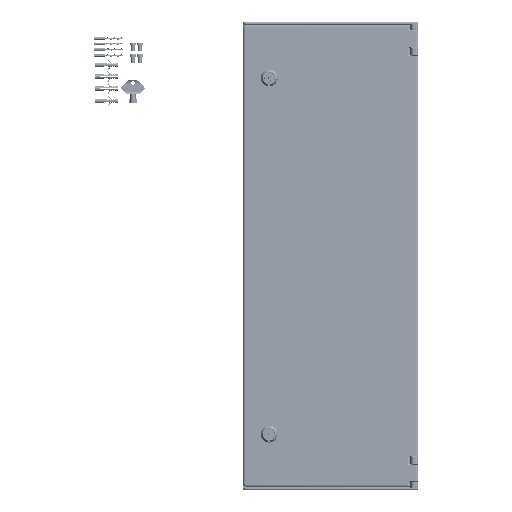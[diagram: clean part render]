
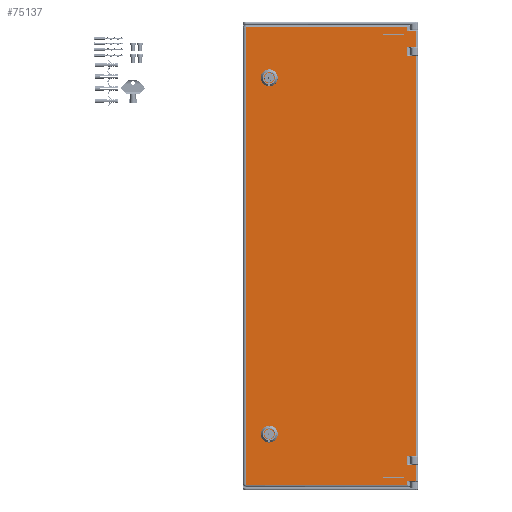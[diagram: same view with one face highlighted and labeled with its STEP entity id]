
A CAD part, top view. The second image highlights one B-rep face of the part: STEP entity #75137.
In plain terms, the highlighted planar face has unit normal (0, 0, 1) as drawn and (0, 0, -1) by its records, which use the part's own axes.
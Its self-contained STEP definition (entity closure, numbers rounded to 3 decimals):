
#2511=B_SPLINE_CURVE_WITH_KNOTS('',3,(#161069,#161070,#161071,#161072),
 .UNSPECIFIED.,.F.,.F.,(4,4),(0.,1.),.UNSPECIFIED.);
#2512=B_SPLINE_CURVE_WITH_KNOTS('',3,(#161076,#161077,#161078,#161079),
 .UNSPECIFIED.,.F.,.F.,(4,4),(0.,1.),.UNSPECIFIED.);
#4168=CIRCLE('',#80747,0.75);
#4169=CIRCLE('',#80748,0.75);
#4170=CIRCLE('',#80749,0.75);
#4171=CIRCLE('',#80750,0.75);
#7965=FACE_BOUND('',#14495,.T.);
#7966=FACE_BOUND('',#14496,.T.);
#9855=FACE_OUTER_BOUND('',#14494,.T.);
#14494=EDGE_LOOP('',(#56931,#56932,#56933,#56934,#56935,#56936,#56937,#56938,
#56939,#56940,#56941,#56942,#56943,#56944,#56945,#56946,#56947,#56948));
#14495=EDGE_LOOP('',(#56949,#56950,#56951,#56952));
#14496=EDGE_LOOP('',(#56953,#56954,#56955,#56956));
#21049=LINE('',#161047,#26611);
#21050=LINE('',#161049,#26612);
#21051=LINE('',#161051,#26613);
#21052=LINE('',#161053,#26614);
#21053=LINE('',#161055,#26615);
#21054=LINE('',#161057,#26616);
#21055=LINE('',#161059,#26617);
#21056=LINE('',#161061,#26618);
#21057=LINE('',#161063,#26619);
#21058=LINE('',#161065,#26620);
#21059=LINE('',#161067,#26621);
#21060=LINE('',#161074,#26622);
#21061=LINE('',#161081,#26623);
#21062=LINE('',#161083,#26624);
#21063=LINE('',#161085,#26625);
#21064=LINE('',#161086,#26626);
#21065=LINE('',#161089,#26627);
#21066=LINE('',#161093,#26628);
#21067=LINE('',#161097,#26629);
#21068=LINE('',#161101,#26630);
#26611=VECTOR('',#93207,14.);
#26612=VECTOR('',#93208,15.753);
#26613=VECTOR('',#93209,14.);
#26614=VECTOR('',#93210,683.147);
#26615=VECTOR('',#93211,14.);
#26616=VECTOR('',#93212,15.753);
#26617=VECTOR('',#93213,14.);
#26618=VECTOR('',#93214,27.747);
#26619=VECTOR('',#93215,14.);
#26620=VECTOR('',#93216,6.217);
#26621=VECTOR('',#93217,275.145);
#26622=VECTOR('',#93218,779.632);
#26623=VECTOR('',#93219,275.145);
#26624=VECTOR('',#93220,6.217);
#26625=VECTOR('',#93221,14.);
#26626=VECTOR('',#93222,27.747);
#26627=VECTOR('',#93223,33.5);
#26628=VECTOR('',#93226,33.5);
#26629=VECTOR('',#93229,33.5);
#26630=VECTOR('',#93232,33.5);
#32650=VERTEX_POINT('',#161045);
#32651=VERTEX_POINT('',#161046);
#32652=VERTEX_POINT('',#161048);
#32653=VERTEX_POINT('',#161050);
#32654=VERTEX_POINT('',#161052);
#32655=VERTEX_POINT('',#161054);
#32656=VERTEX_POINT('',#161056);
#32657=VERTEX_POINT('',#161058);
#32658=VERTEX_POINT('',#161060);
#32659=VERTEX_POINT('',#161062);
#32660=VERTEX_POINT('',#161064);
#32661=VERTEX_POINT('',#161066);
#32662=VERTEX_POINT('',#161068);
#32663=VERTEX_POINT('',#161073);
#32664=VERTEX_POINT('',#161075);
#32665=VERTEX_POINT('',#161080);
#32666=VERTEX_POINT('',#161082);
#32667=VERTEX_POINT('',#161084);
#32668=VERTEX_POINT('',#161087);
#32669=VERTEX_POINT('',#161088);
#32670=VERTEX_POINT('',#161090);
#32671=VERTEX_POINT('',#161092);
#32672=VERTEX_POINT('',#161095);
#32673=VERTEX_POINT('',#161096);
#32674=VERTEX_POINT('',#161098);
#32675=VERTEX_POINT('',#161100);
#41474=EDGE_CURVE('',#32650,#32651,#21049,.T.);
#41475=EDGE_CURVE('',#32651,#32652,#21050,.T.);
#41476=EDGE_CURVE('',#32653,#32652,#21051,.T.);
#41477=EDGE_CURVE('',#32653,#32654,#21052,.T.);
#41478=EDGE_CURVE('',#32654,#32655,#21053,.T.);
#41479=EDGE_CURVE('',#32655,#32656,#21054,.T.);
#41480=EDGE_CURVE('',#32657,#32656,#21055,.T.);
#41481=EDGE_CURVE('',#32657,#32658,#21056,.T.);
#41482=EDGE_CURVE('',#32658,#32659,#21057,.T.);
#41483=EDGE_CURVE('',#32660,#32659,#21058,.T.);
#41484=EDGE_CURVE('',#32660,#32661,#21059,.T.);
#41485=EDGE_CURVE('',#32662,#32661,#2511,.T.);
#41486=EDGE_CURVE('',#32662,#32663,#21060,.T.);
#41487=EDGE_CURVE('',#32663,#32664,#2512,.T.);
#41488=EDGE_CURVE('',#32664,#32665,#21061,.T.);
#41489=EDGE_CURVE('',#32666,#32665,#21062,.T.);
#41490=EDGE_CURVE('',#32666,#32667,#21063,.T.);
#41491=EDGE_CURVE('',#32667,#32650,#21064,.T.);
#41492=EDGE_CURVE('',#32668,#32669,#21065,.T.);
#41493=EDGE_CURVE('',#32668,#32670,#4168,.T.);
#41494=EDGE_CURVE('',#32671,#32670,#21066,.T.);
#41495=EDGE_CURVE('',#32671,#32669,#4169,.T.);
#41496=EDGE_CURVE('',#32672,#32673,#21067,.T.);
#41497=EDGE_CURVE('',#32672,#32674,#4170,.T.);
#41498=EDGE_CURVE('',#32675,#32674,#21068,.T.);
#41499=EDGE_CURVE('',#32675,#32673,#4171,.T.);
#56931=ORIENTED_EDGE('',*,*,#41474,.T.);
#56932=ORIENTED_EDGE('',*,*,#41475,.T.);
#56933=ORIENTED_EDGE('',*,*,#41476,.F.);
#56934=ORIENTED_EDGE('',*,*,#41477,.T.);
#56935=ORIENTED_EDGE('',*,*,#41478,.T.);
#56936=ORIENTED_EDGE('',*,*,#41479,.T.);
#56937=ORIENTED_EDGE('',*,*,#41480,.F.);
#56938=ORIENTED_EDGE('',*,*,#41481,.T.);
#56939=ORIENTED_EDGE('',*,*,#41482,.T.);
#56940=ORIENTED_EDGE('',*,*,#41483,.F.);
#56941=ORIENTED_EDGE('',*,*,#41484,.T.);
#56942=ORIENTED_EDGE('',*,*,#41485,.F.);
#56943=ORIENTED_EDGE('',*,*,#41486,.T.);
#56944=ORIENTED_EDGE('',*,*,#41487,.T.);
#56945=ORIENTED_EDGE('',*,*,#41488,.T.);
#56946=ORIENTED_EDGE('',*,*,#41489,.F.);
#56947=ORIENTED_EDGE('',*,*,#41490,.T.);
#56948=ORIENTED_EDGE('',*,*,#41491,.T.);
#56949=ORIENTED_EDGE('',*,*,#41492,.F.);
#56950=ORIENTED_EDGE('',*,*,#41493,.T.);
#56951=ORIENTED_EDGE('',*,*,#41494,.F.);
#56952=ORIENTED_EDGE('',*,*,#41495,.T.);
#56953=ORIENTED_EDGE('',*,*,#41496,.F.);
#56954=ORIENTED_EDGE('',*,*,#41497,.T.);
#56955=ORIENTED_EDGE('',*,*,#41498,.F.);
#56956=ORIENTED_EDGE('',*,*,#41499,.T.);
#72580=PLANE('',#80746);
#75137=ADVANCED_FACE('',(#9855,#7965,#7966),#72580,.F.);
#80746=AXIS2_PLACEMENT_3D('',#161044,#93205,#93206);
#80747=AXIS2_PLACEMENT_3D('',#161091,#93224,#93225);
#80748=AXIS2_PLACEMENT_3D('',#161094,#93227,#93228);
#80749=AXIS2_PLACEMENT_3D('',#161099,#93230,#93231);
#80750=AXIS2_PLACEMENT_3D('',#161102,#93233,#93234);
#93205=DIRECTION('center_axis',(0.,0.,1.));
#93206=DIRECTION('ref_axis',(1.,0.,0.));
#93207=DIRECTION('',(-1.,0.,0.));
#93208=DIRECTION('',(0.,-1.,0.));
#93209=DIRECTION('',(-1.,0.,0.));
#93210=DIRECTION('',(0.,-1.,0.));
#93211=DIRECTION('',(-1.,0.,0.));
#93212=DIRECTION('',(0.,-1.,0.));
#93213=DIRECTION('',(-1.,0.,0.));
#93214=DIRECTION('',(0.,-1.,0.));
#93215=DIRECTION('',(-1.,0.,0.));
#93216=DIRECTION('',(0.,1.,0.));
#93217=DIRECTION('',(-1.,0.,0.));
#93218=DIRECTION('',(0.,1.,0.));
#93219=DIRECTION('',(1.,0.,0.));
#93220=DIRECTION('',(0.,1.,0.));
#93221=DIRECTION('',(1.,0.,0.));
#93222=DIRECTION('',(0.,-1.,0.));
#93223=DIRECTION('',(-1.,0.,0.));
#93224=DIRECTION('center_axis',(0.,0.,1.));
#93225=DIRECTION('ref_axis',(0.,-1.,0.));
#93226=DIRECTION('',(1.,0.,0.));
#93227=DIRECTION('center_axis',(0.,0.,1.));
#93228=DIRECTION('ref_axis',(0.,1.,0.));
#93229=DIRECTION('',(1.,0.,0.));
#93230=DIRECTION('center_axis',(0.,0.,1.));
#93231=DIRECTION('ref_axis',(0.,1.,0.));
#93232=DIRECTION('',(-1.,0.,0.));
#93233=DIRECTION('center_axis',(0.,0.,1.));
#93234=DIRECTION('ref_axis',(0.,-1.,0.));
#161044=CARTESIAN_POINT('Origin',(0.,0.,0.));
#161045=CARTESIAN_POINT('',(145.316,357.327,0.));
#161046=CARTESIAN_POINT('',(131.316,357.327,0.));
#161047=CARTESIAN_POINT('',(145.316,357.327,0.));
#161048=CARTESIAN_POINT('',(131.316,341.573,0.));
#161049=CARTESIAN_POINT('',(131.316,357.327,0.));
#161050=CARTESIAN_POINT('',(145.316,341.573,0.));
#161051=CARTESIAN_POINT('',(145.316,341.573,0.));
#161052=CARTESIAN_POINT('',(145.316,-341.573,0.));
#161053=CARTESIAN_POINT('',(145.316,341.573,0.));
#161054=CARTESIAN_POINT('',(131.316,-341.573,0.));
#161055=CARTESIAN_POINT('',(145.316,-341.573,0.));
#161056=CARTESIAN_POINT('',(131.316,-357.327,0.));
#161057=CARTESIAN_POINT('',(131.316,-341.573,0.));
#161058=CARTESIAN_POINT('',(145.316,-357.327,0.));
#161059=CARTESIAN_POINT('',(145.316,-357.327,0.));
#161060=CARTESIAN_POINT('',(145.316,-385.073,0.));
#161061=CARTESIAN_POINT('',(145.316,-357.327,0.));
#161062=CARTESIAN_POINT('',(131.316,-385.073,0.));
#161063=CARTESIAN_POINT('',(145.316,-385.073,0.));
#161064=CARTESIAN_POINT('',(131.316,-391.29,0.));
#161065=CARTESIAN_POINT('',(131.316,-391.29,0.));
#161066=CARTESIAN_POINT('',(-143.829,-391.29,0.));
#161067=CARTESIAN_POINT('',(131.316,-391.29,0.));
#161068=CARTESIAN_POINT('',(-145.316,-389.816,0.));
#161069=CARTESIAN_POINT('Ctrl Pts',(-145.316,-389.816,0.));
#161070=CARTESIAN_POINT('Ctrl Pts',(-145.293,-390.518,0.));
#161071=CARTESIAN_POINT('Ctrl Pts',(-144.531,-391.29,0.));
#161072=CARTESIAN_POINT('Ctrl Pts',(-143.829,-391.29,0.));
#161073=CARTESIAN_POINT('',(-145.316,389.816,0.));
#161074=CARTESIAN_POINT('',(-145.316,-389.816,0.));
#161075=CARTESIAN_POINT('',(-143.829,391.29,0.));
#161076=CARTESIAN_POINT('Ctrl Pts',(-145.316,389.816,0.));
#161077=CARTESIAN_POINT('Ctrl Pts',(-145.287,390.517,0.));
#161078=CARTESIAN_POINT('Ctrl Pts',(-144.531,391.29,0.));
#161079=CARTESIAN_POINT('Ctrl Pts',(-143.829,391.29,0.));
#161080=CARTESIAN_POINT('',(131.316,391.29,0.));
#161081=CARTESIAN_POINT('',(-143.829,391.29,0.));
#161082=CARTESIAN_POINT('',(131.316,385.073,0.));
#161083=CARTESIAN_POINT('',(131.316,385.073,0.));
#161084=CARTESIAN_POINT('',(145.316,385.073,0.));
#161085=CARTESIAN_POINT('',(131.316,385.073,0.));
#161086=CARTESIAN_POINT('',(145.316,385.073,0.));
#161087=CARTESIAN_POINT('',(124.25,-379.5,0.));
#161088=CARTESIAN_POINT('',(90.75,-379.5,0.));
#161089=CARTESIAN_POINT('',(124.25,-379.5,0.));
#161090=CARTESIAN_POINT('',(124.25,-378.,0.));
#161091=CARTESIAN_POINT('Origin',(124.25,-378.75,0.));
#161092=CARTESIAN_POINT('',(90.75,-378.,0.));
#161093=CARTESIAN_POINT('',(90.75,-378.,0.));
#161094=CARTESIAN_POINT('Origin',(90.75,-378.75,0.));
#161095=CARTESIAN_POINT('',(90.75,379.5,0.));
#161096=CARTESIAN_POINT('',(124.25,379.5,0.));
#161097=CARTESIAN_POINT('',(90.75,379.5,0.));
#161098=CARTESIAN_POINT('',(90.75,378.,0.));
#161099=CARTESIAN_POINT('Origin',(90.75,378.75,0.));
#161100=CARTESIAN_POINT('',(124.25,378.,0.));
#161101=CARTESIAN_POINT('',(124.25,378.,0.));
#161102=CARTESIAN_POINT('Origin',(124.25,378.75,0.));
